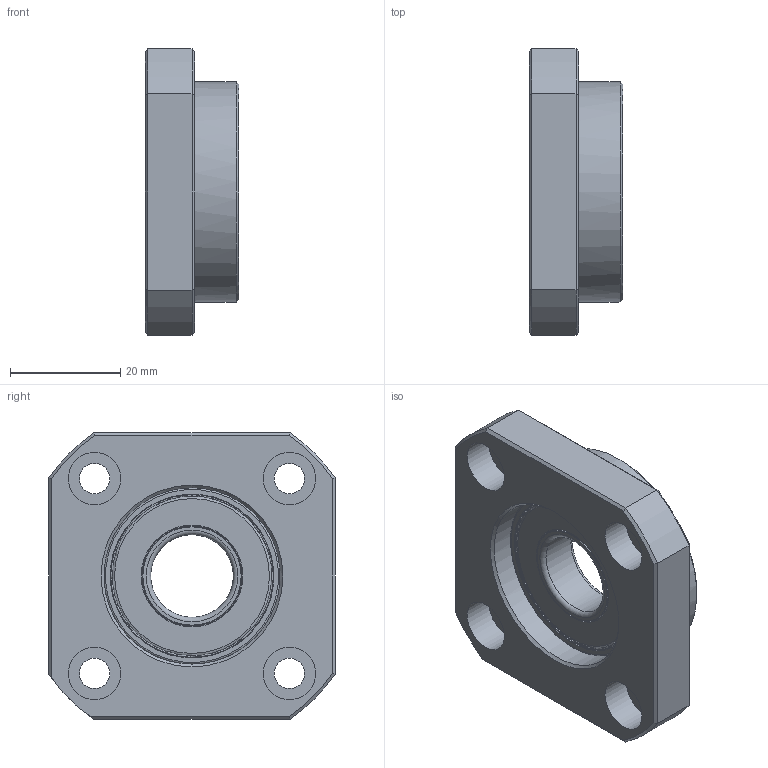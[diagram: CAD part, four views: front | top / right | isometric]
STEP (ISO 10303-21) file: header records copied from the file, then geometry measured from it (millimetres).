
FILE_DESCRIPTION(('STEP AP214'), '1');
FILE_NAME('FF15', '', ('UNSPECIFIED'), ('UNSPECIFIED'), 'ASCON STEP Converter 1.3', 'ASCON Math Kernel', '');
FILE_SCHEMA(('AUTOMOTIVE_DESIGN { 1 0 10303 214 3 1 1}'));
Length unit declared in the file: millimetre
Bounding box: 17 x 52 x 52 mm (x, y, z)
Volume: 20737.9 mm3; surface area: 14644.7 mm2
Topology: 13 solids, 13 shells, 180 faces, 439 edges, 279 vertices
Faces by surface type: plane 81, cylinder 43, torus 30, sphere 14, cone 12
Full cylindrical faces by diameter (mm): 5.5 x4, 9.5 x4, 15 x1, 18.05 x2, 18.47 x2, 19.65 x2, 22.6 x1, 25.8 x1, 27.5 x2, 29.5 x4, 32 x2, 40 x1
Entity records: 9472 total; most frequent: CARTESIAN_POINT 4220, DIRECTION 726, ORIENTED_EDGE 686, EDGE_CURVE 343, AXIS2_PLACEMENT_3D 306, EDGE_LOOP 269, VERTEX_POINT 258, COLOUR_RGB 193
